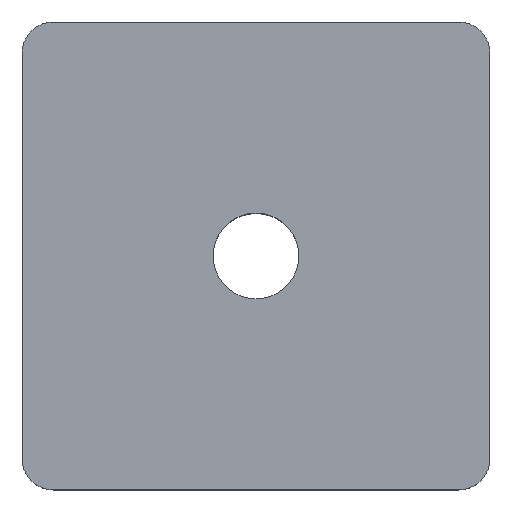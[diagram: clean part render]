
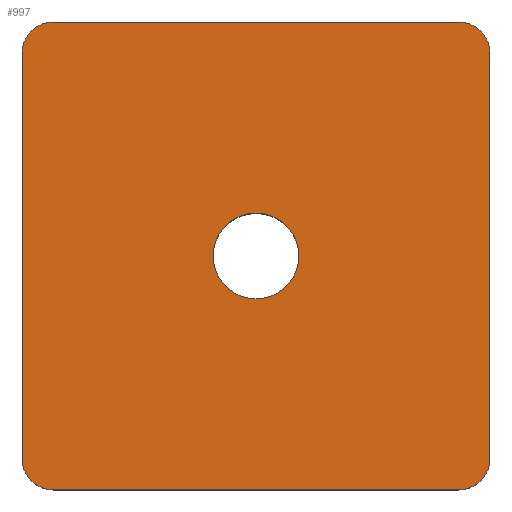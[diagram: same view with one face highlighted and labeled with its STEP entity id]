
A CAD part, top view. The second image highlights one B-rep face of the part: STEP entity #997.
In plain terms, the highlighted planar face has unit normal (0, 0, 1).
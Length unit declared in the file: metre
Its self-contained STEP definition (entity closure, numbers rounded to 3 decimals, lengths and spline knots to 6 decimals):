
#59=PLANE('',#1107);
#105=LINE('',#3463,#163);
#109=LINE('',#3472,#167);
#111=LINE('',#3476,#169);
#117=LINE('',#3490,#175);
#163=VECTOR('',#1343,1.);
#167=VECTOR('',#1349,1.);
#169=VECTOR('',#1353,1.);
#175=VECTOR('',#1361,1.);
#404=ORIENTED_EDGE('',*,*,#624,.F.);
#405=ORIENTED_EDGE('',*,*,#614,.T.);
#406=ORIENTED_EDGE('',*,*,#625,.T.);
#407=ORIENTED_EDGE('',*,*,#616,.T.);
#408=ORIENTED_EDGE('',*,*,#626,.T.);
#409=ORIENTED_EDGE('',*,*,#622,.F.);
#410=ORIENTED_EDGE('',*,*,#627,.T.);
#411=ORIENTED_EDGE('',*,*,#610,.F.);
#412=ORIENTED_EDGE('',*,*,#628,.T.);
#610=EDGE_CURVE('',#720,#721,#105,.T.);
#614=EDGE_CURVE('',#725,#724,#109,.T.);
#616=EDGE_CURVE('',#726,#727,#111,.T.);
#622=EDGE_CURVE('',#732,#733,#117,.T.);
#624=EDGE_CURVE('',#734,#734,#792,.T.);
#625=EDGE_CURVE('',#724,#726,#793,.T.);
#626=EDGE_CURVE('',#727,#733,#794,.T.);
#627=EDGE_CURVE('',#732,#721,#795,.T.);
#628=EDGE_CURVE('',#720,#725,#796,.T.);
#720=VERTEX_POINT('',#3462);
#721=VERTEX_POINT('',#3464);
#724=VERTEX_POINT('',#3471);
#725=VERTEX_POINT('',#3473);
#726=VERTEX_POINT('',#3477);
#727=VERTEX_POINT('',#3478);
#732=VERTEX_POINT('',#3489);
#733=VERTEX_POINT('',#3491);
#734=VERTEX_POINT('',#3495);
#792=CIRCLE('',#1108,0.00275);
#793=CIRCLE('',#1109,0.002);
#794=CIRCLE('',#1110,0.002);
#795=CIRCLE('',#1111,0.002);
#796=CIRCLE('',#1112,0.002);
#849=EDGE_LOOP('',(#404));
#850=EDGE_LOOP('',(#405,#406,#407,#408,#409,#410,#411,#412));
#907=FACE_BOUND('',#849,.T.);
#908=FACE_BOUND('',#850,.T.);
#997=ADVANCED_FACE('',(#907,#908),#59,.T.);
#1107=AXIS2_PLACEMENT_3D('',#3493,#1363,#1364);
#1108=AXIS2_PLACEMENT_3D('',#3494,#1365,#1366);
#1109=AXIS2_PLACEMENT_3D('',#3496,#1367,#1368);
#1110=AXIS2_PLACEMENT_3D('',#3497,#1369,#1370);
#1111=AXIS2_PLACEMENT_3D('',#3498,#1371,#1372);
#1112=AXIS2_PLACEMENT_3D('',#3499,#1373,#1374);
#1343=DIRECTION('',(-1.,0.,0.));
#1349=DIRECTION('',(0.,1.,0.));
#1353=DIRECTION('',(-1.,0.,0.));
#1361=DIRECTION('',(0.,1.,0.));
#1363=DIRECTION('',(0.,0.,1.));
#1364=DIRECTION('',(1.,0.,0.));
#1365=DIRECTION('',(0.,0.,1.));
#1366=DIRECTION('',(0.,-1.,0.));
#1367=DIRECTION('',(0.,0.,1.));
#1368=DIRECTION('',(0.,-1.,0.));
#1369=DIRECTION('',(0.,0.,1.));
#1370=DIRECTION('',(0.,-1.,0.));
#1371=DIRECTION('',(0.,0.,1.));
#1372=DIRECTION('',(0.,-1.,0.));
#1373=DIRECTION('',(0.,0.,1.));
#1374=DIRECTION('',(0.,-1.,0.));
#3462=CARTESIAN_POINT('',(0.013,-0.015,0.0087));
#3463=CARTESIAN_POINT('',(0.,-0.015,0.0087));
#3464=CARTESIAN_POINT('',(-0.013,-0.015,0.0087));
#3471=CARTESIAN_POINT('',(0.015,0.013,0.0087));
#3472=CARTESIAN_POINT('',(0.015,0.,0.0087));
#3473=CARTESIAN_POINT('',(0.015,-0.013,0.0087));
#3476=CARTESIAN_POINT('',(0.,0.015,0.0087));
#3477=CARTESIAN_POINT('',(0.013,0.015,0.0087));
#3478=CARTESIAN_POINT('',(-0.013,0.015,0.0087));
#3489=CARTESIAN_POINT('',(-0.015,-0.013,0.0087));
#3490=CARTESIAN_POINT('',(-0.015,0.,0.0087));
#3491=CARTESIAN_POINT('',(-0.015,0.013,0.0087));
#3493=CARTESIAN_POINT('',(0.,0.,0.0087));
#3494=CARTESIAN_POINT('',(0.,0.,0.0087));
#3495=CARTESIAN_POINT('',(0.,-0.00275,0.0087));
#3496=CARTESIAN_POINT('',(0.013,0.013,0.0087));
#3497=CARTESIAN_POINT('',(-0.013,0.013,0.0087));
#3498=CARTESIAN_POINT('',(-0.013,-0.013,0.0087));
#3499=CARTESIAN_POINT('',(0.013,-0.013,0.0087));
